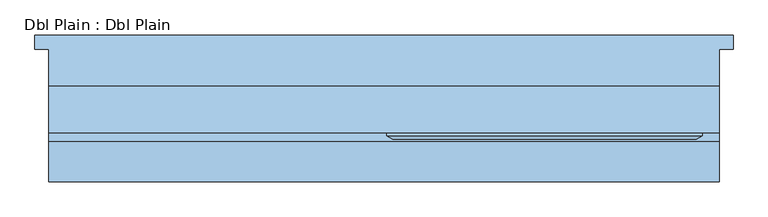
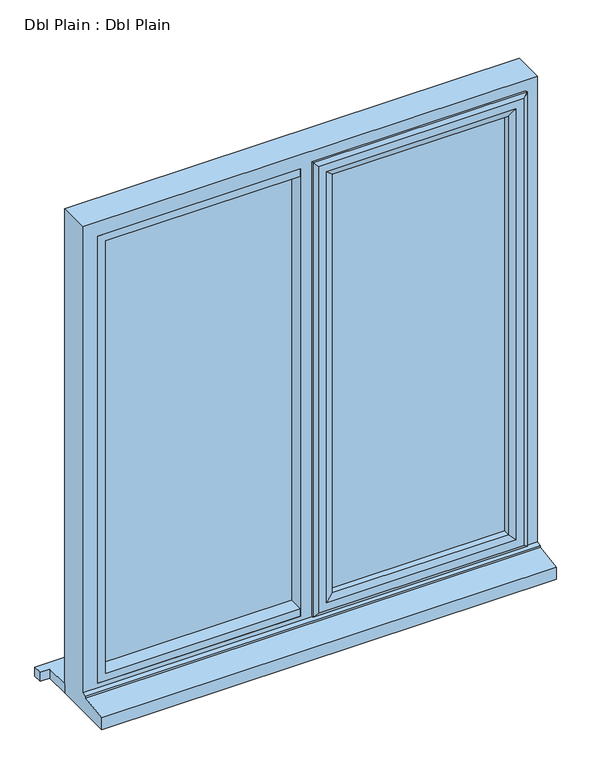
"""IFC4 building model written with IfcOpenShell, lengths in millimetres: window geometry, Dbl Plain : Dbl Plain."""

from ifc_helpers import new_model, si_unit, frame, origin, place, context, project, spatial, polyline, outline, extrude, faceted_brep, source, transform, mapped, element, save


def dbl_plain_dbl_plain_05760ac3(model_context):
    return source(origin(), model_context, "Body", "SolidModel", [
        extrude(outline(polyline([(-910.0, 116.5434322), (340.0, 116.5434322), (340.0, 91.5434322), (315.0, 91.5434322), (315.0, 24.5434322), (-885.0, 24.5434322), (-885.0, 91.5434322), (-910.0, 91.5434322), (-910.0, 116.5434322)])), frame((0.0, 0.0, 760.0), z_axis=(0.0, 0.0, 1.0), x_axis=(1.0, 0.0, 0.0)), (0.0, 0.0, 1.0), 25.0),
        extrude(outline(polyline([(245.0, -22.4565678), (245.0, -46.4565678), (-240.0, -46.4565678), (-240.0, -22.4565678), (245.0, -22.4565678)])), frame((0.0, 0.0, 853.0), z_axis=(0.0, 0.0, 1.0), x_axis=(1.0, 0.0, 0.0)), (0.0, 0.0, 1.0), 1187.0),
        extrude(outline(polyline([(-845.0, -17.4565678), (-845.0, 6.5434322), (-300.0, 6.5434322), (-300.0, -17.4565678), (-845.0, -17.4565678)])), frame((0.0, 0.0, 823.0), z_axis=(0.0, 0.0, 1.0), x_axis=(1.0, 0.0, 0.0)), (0.0, 0.0, 1.0), 1247.0),
        faceted_brep([(315.0, 24.5434322, 2110.0), (315.0, 24.5434322, 760.0), (-885.0, 24.5434322, 760.0), (-885.0, 24.5434322, 2110.0), (255.0, 24.5434322, 2050.0), (-252.0, 24.5434322, 2050.0), (-252.0, 24.5434322, 835.0), (255.0, 24.5434322, 835.0), (-310.0, 24.5434322, 2050.0), (-825.0, 24.5434322, 2050.0), (-825.0, 24.5434322, 835.0), (-310.0, 24.5434322, 835.0), (-885.0, -145.9565678, 760.0), (-885.0, -145.9565678, 793.8088847), (-885.0, -73.4565678, 804.7449676), (-885.0, -73.4565678, 809.68767), (-885.0, -58.4565678, 811.0), (-885.0, -58.4565678, 2110.0), (315.0, -58.4565678, 811.0), (315.0, -58.4565678, 2110.0), (-845.0, -58.4565678, 2070.0), (-310.0, -58.4565678, 2070.0), (-310.0, -58.4565678, 823.0), (-845.0, -58.4565678, 823.0), (-270.0, -58.4565678, 2070.0), (275.0, -58.4565678, 2070.0), (275.0, -58.4565678, 823.0), (-270.0, -58.4565678, 823.0), (-845.0, 6.5434322, 823.0), (-845.0, 6.5434322, 2070.0), (-300.0, 6.5434322, 823.0), (-300.0, 6.5434322, 2070.0), (-310.0, 6.5434322, 2050.0), (-310.0, 6.5434322, 835.0), (-825.0, 6.5434322, 835.0), (-825.0, 6.5434322, 2050.0), (-270.0, 6.5434322, 2070.0), (-270.0, 6.5434322, 823.0), (275.0, 6.5434322, 823.0), (275.0, 6.5434322, 2070.0), (255.0, 6.5434322, 2050.0), (255.0, 6.5434322, 835.0), (-252.0, 6.5434322, 835.0), (-252.0, 6.5434322, 2050.0), (-300.0, -17.4565678, 2070.0), (-310.0, -17.4565678, 2070.0), (315.0, -73.4565678, 809.68767), (315.0, -73.4565678, 804.7449676), (315.0, -145.9565678, 793.8088847), (315.0, -145.9565678, 760.0), (-300.0, -17.4565678, 823.0), (-310.0, -17.4565678, 823.0)], [[[0, 1, 2, 3], [4, 5, 6, 7], [8, 9, 10, 11]], [[2, 12, 13, 14, 15, 16, 17, 3]], [[16, 18, 19, 17], [20, 21, 22, 23], [24, 25, 26, 27]], [[23, 28, 29, 20]], [[29, 28, 30, 31], [32, 33, 34, 35]], [[36, 37, 38, 39], [40, 41, 42, 43]], [[35, 34, 10, 9]], [[3, 17, 19, 0]], [[25, 24, 36, 39]], [[29, 31, 44, 45, 21, 20]], [[9, 8, 32, 35]], [[40, 43, 5, 4]], [[18, 46, 47, 48, 49, 1, 0, 19]], [[25, 39, 38, 26]], [[4, 7, 41, 40]], [[44, 31, 30, 50]], [[50, 51, 45, 44]], [[51, 22, 21, 45]], [[27, 37, 36, 24]], [[43, 42, 6, 5]], [[8, 11, 33, 32]], [[49, 12, 2, 1]], [[48, 13, 12, 49]], [[47, 14, 13, 48]], [[46, 15, 14, 47]], [[18, 16, 15, 46]], [[26, 38, 37, 27]], [[22, 51, 50, 30, 28, 23]], [[6, 42, 41, 7]], [[33, 11, 10, 34]]]),
        extrude(outline(polyline([(2070.0, -310.0), (2070.0, -845.0), (823.0, -845.0), (823.0, -310.0), (843.0, -310.0), (843.0, -825.0), (2050.0, -825.0), (2050.0, -310.0), (2070.0, -310.0)])), frame((0.0, -58.4565678, 0.0), z_axis=(0.0, 1.0, 0.0), x_axis=(0.0, 0.0, 1.0)), (0.0, 0.0, 1.0), 41.0),
        faceted_brep([(-280.0, -58.4565678, 2080.0), (-280.0, -58.4565678, 813.0), (-280.0, -64.2300705, 813.0), (-280.0, -64.2300705, 2080.0), (-270.0, 6.5434322, 2070.0), (-270.0, 6.5434322, 823.0), (-270.0, -58.4565678, 823.0), (-270.0, -58.4565678, 2070.0), (-230.0, -7.9494677, 2030.0), (-230.0, -7.9494677, 863.0), (-240.1480377, 6.5434322, 852.8519623), (-240.1480377, 6.5434322, 2040.1480377), (-230.0, -22.4565678, 2030.0), (-230.0, -22.4565678, 863.0), (-240.0, -46.4565678, 2040.0), (-240.0, -46.4565678, 853.0), (-240.0, -22.4565678, 853.0), (-240.0, -22.4565678, 2040.0), (-230.0, -64.2300705, 2030.0), (-230.0, -64.2300705, 863.0), (-230.0, -46.4565678, 863.0), (-230.0, -46.4565678, 2030.0), (-247.4457548, -70.0035732, 2047.4457548), (-247.4457548, -70.0035732, 845.5542452), (-269.2153903, -70.0035732, 823.7846097), (-269.2153903, -70.0035732, 2069.2153903), (285.0, -58.4565678, 813.0), (285.0, -64.2300705, 813.0), (275.0, 6.5434322, 823.0), (275.0, -58.4565678, 823.0), (235.0, -7.9494677, 863.0), (245.1480377, 6.5434322, 852.8519623), (235.0, -22.4565678, 863.0), (245.0, -46.4565678, 853.0), (245.0, -22.4565678, 853.0), (235.0, -64.2300705, 863.0), (235.0, -46.4565678, 863.0), (252.4457548, -70.0035732, 845.5542452), (274.2153903, -70.0035732, 823.7846097), (285.0, -58.4565678, 2080.0), (285.0, -64.2300705, 2080.0), (275.0, 6.5434322, 2070.0), (275.0, -58.4565678, 2070.0), (235.0, -7.9494677, 2030.0), (245.1480377, 6.5434322, 2040.1480377), (235.0, -22.4565678, 2030.0), (245.0, -46.4565678, 2040.0), (245.0, -22.4565678, 2040.0), (235.0, -64.2300705, 2030.0), (235.0, -46.4565678, 2030.0), (252.4457548, -70.0035732, 2047.4457548), (274.2153903, -70.0035732, 2069.2153903)], [[[0, 1, 2, 3]], [[4, 5, 6, 7]], [[8, 9, 10, 11]], [[12, 13, 9, 8]], [[14, 15, 16, 17]], [[18, 19, 20, 21]], [[22, 23, 19, 18]], [[3, 2, 24, 25]], [[1, 26, 27, 2]], [[5, 28, 29, 6]], [[9, 30, 31, 10]], [[13, 32, 30, 9]], [[15, 33, 34, 16]], [[19, 35, 36, 20]], [[23, 37, 35, 19]], [[2, 27, 38, 24]], [[26, 39, 40, 27]], [[28, 41, 42, 29]], [[30, 43, 44, 31]], [[32, 45, 43, 30]], [[33, 46, 47, 34]], [[35, 48, 49, 36]], [[37, 50, 48, 35]], [[27, 40, 51, 38]], [[39, 0, 3, 40]], [[1, 0, 39, 26], [7, 6, 29, 42]], [[41, 4, 7, 42]], [[5, 4, 41, 28], [11, 10, 31, 44]], [[43, 8, 11, 44]], [[45, 12, 8, 43]], [[17, 16, 34, 47], [13, 12, 45, 32]], [[46, 14, 17, 47]], [[15, 14, 46, 33], [21, 20, 36, 49]], [[48, 18, 21, 49]], [[50, 22, 18, 48]], [[25, 24, 38, 51], [23, 22, 50, 37]], [[40, 3, 25, 51]]]),
    ])


if __name__ == "__main__":
    model = new_model("IFC4")
    model_context = context("Model", 3, world=origin())
    ifc_project = project(units=[si_unit("LENGTHUNIT", "METRE", prefix="MILLI")], contexts=[model_context])
    site = spatial("IfcSite", under=ifc_project)
    building = spatial("IfcBuilding", under=site)
    placement = place(None, origin())
    dbl_plain_dbl_plain_shape = dbl_plain_dbl_plain_05760ac3(model_context)
    element("IfcWindow", 1, ObjectType="Dbl Plain : Dbl Plain", at=placement, inside=building, context=model_context, shape_type="MappedRepresentation", body=[
        mapped(dbl_plain_dbl_plain_shape, transform((0.0, 0.0, 0.0), x_axis=(1.0, 0.0, 0.0), y_axis=(0.0, 1.0, 0.0), z_axis=(0.0, 0.0, 1.0))),
    ])
    save(model, "model.ifc")
